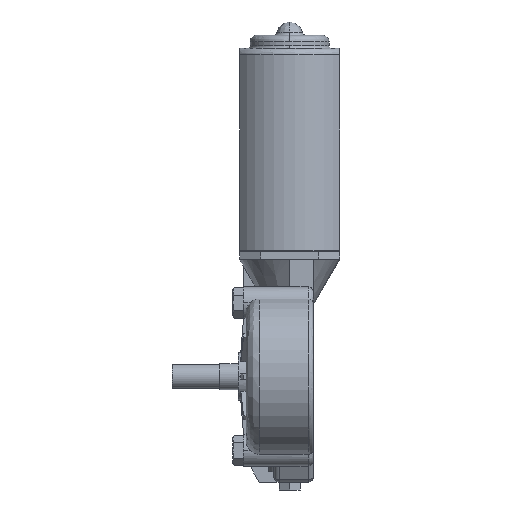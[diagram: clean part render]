
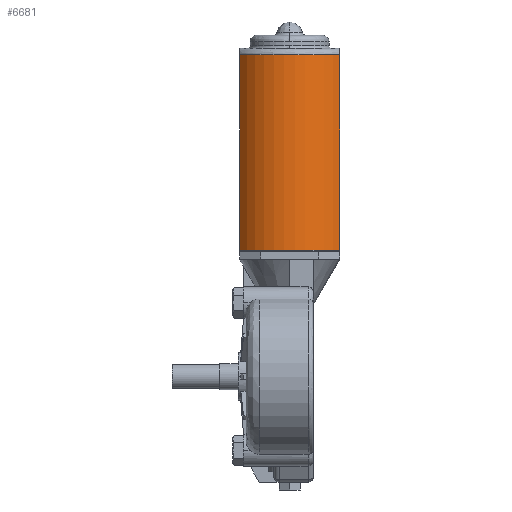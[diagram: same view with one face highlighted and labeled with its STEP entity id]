
A CAD part, front view. The second image highlights one B-rep face of the part: STEP entity #6681.
In plain terms, the highlighted cylindrical face has radius 24 mm (diameter 48 mm), a partial arc.
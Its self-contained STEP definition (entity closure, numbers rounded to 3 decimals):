
#354 = CARTESIAN_POINT ( 'NONE',  ( 25.5, 13.637, 85. ) ) ;
#662 = CARTESIAN_POINT ( 'NONE',  ( 63.5, 13.637, 48. ) ) ;
#1145 = VECTOR ( 'NONE', #5981, 1000. ) ;
#1410 = LINE ( 'NONE', #6022, #1145 ) ;
#1517 = CARTESIAN_POINT ( 'NONE',  ( 25.5, 13.637, 48. ) ) ;
#2443 = CARTESIAN_POINT ( 'NONE',  ( 63.5, 13.637, 122. ) ) ;
#2490 = EDGE_CURVE ( 'NONE', #6610, #5798, #3423, .T. ) ;
#2547 = ORIENTED_EDGE ( 'NONE', *, *, #3360, .F. ) ;
#2764 = EDGE_CURVE ( 'NONE', #6739, #6610, #4761, .T. ) ;
#2940 = EDGE_LOOP ( 'NONE', ( #2547, #9290, #4712, #7697 ) ) ;
#3208 = CARTESIAN_POINT ( 'NONE',  ( 44.5, 28.3, 122. ) ) ;
#3227 = EDGE_CURVE ( 'NONE', #5798, #6747, #1410, .T. ) ;
#3360 = EDGE_CURVE ( 'NONE', #6747, #6739, #8243, .T. ) ;
#3423 = CIRCLE ( 'NONE', #10509, 24. ) ;
#3505 = DIRECTION ( 'NONE',  ( -1., 0., 0. ) ) ;
#3512 = CARTESIAN_POINT ( 'NONE',  ( 44.5, 28.3, 48. ) ) ;
#3524 = DIRECTION ( 'NONE',  ( 0., 0., -1. ) ) ;
#4224 = VECTOR ( 'NONE', #8253, 1000. ) ;
#4712 = ORIENTED_EDGE ( 'NONE', *, *, #2490, .F. ) ;
#4761 = LINE ( 'NONE', #354, #4224 ) ;
#4931 = DIRECTION ( 'NONE',  ( 0., 0., -1. ) ) ;
#5798 = VERTEX_POINT ( 'NONE', #2443 ) ;
#5903 = CYLINDRICAL_SURFACE ( 'NONE', #9419, 24. ) ;
#5981 = DIRECTION ( 'NONE',  ( 0., 0., -1. ) ) ;
#6022 = CARTESIAN_POINT ( 'NONE',  ( 63.5, 13.637, 85. ) ) ;
#6610 = VERTEX_POINT ( 'NONE', #9902 ) ;
#6681 = ADVANCED_FACE ( 'NONE', ( #10610 ), #5903, .T. ) ;
#6739 = VERTEX_POINT ( 'NONE', #1517 ) ;
#6747 = VERTEX_POINT ( 'NONE', #662 ) ;
#7697 = ORIENTED_EDGE ( 'NONE', *, *, #2764, .F. ) ;
#8243 = CIRCLE ( 'NONE', #10087, 24. ) ;
#8253 = DIRECTION ( 'NONE',  ( 0., 0., 1. ) ) ;
#8395 = DIRECTION ( 'NONE',  ( -1., 0., 0. ) ) ;
#9062 = DIRECTION ( 'NONE',  ( 0., 1., 0. ) ) ;
#9160 = DIRECTION ( 'NONE',  ( 0., 0., 1. ) ) ;
#9173 = CARTESIAN_POINT ( 'NONE',  ( 44.5, 28.3, 122. ) ) ;
#9290 = ORIENTED_EDGE ( 'NONE', *, *, #3227, .F. ) ;
#9419 = AXIS2_PLACEMENT_3D ( 'NONE', #3208, #4931, #8395 ) ;
#9902 = CARTESIAN_POINT ( 'NONE',  ( 25.5, 13.637, 122. ) ) ;
#10087 = AXIS2_PLACEMENT_3D ( 'NONE', #3512, #3524, #3505 ) ;
#10509 = AXIS2_PLACEMENT_3D ( 'NONE', #9173, #9160, #9062 ) ;
#10610 = FACE_OUTER_BOUND ( 'NONE', #2940, .T. ) ;
